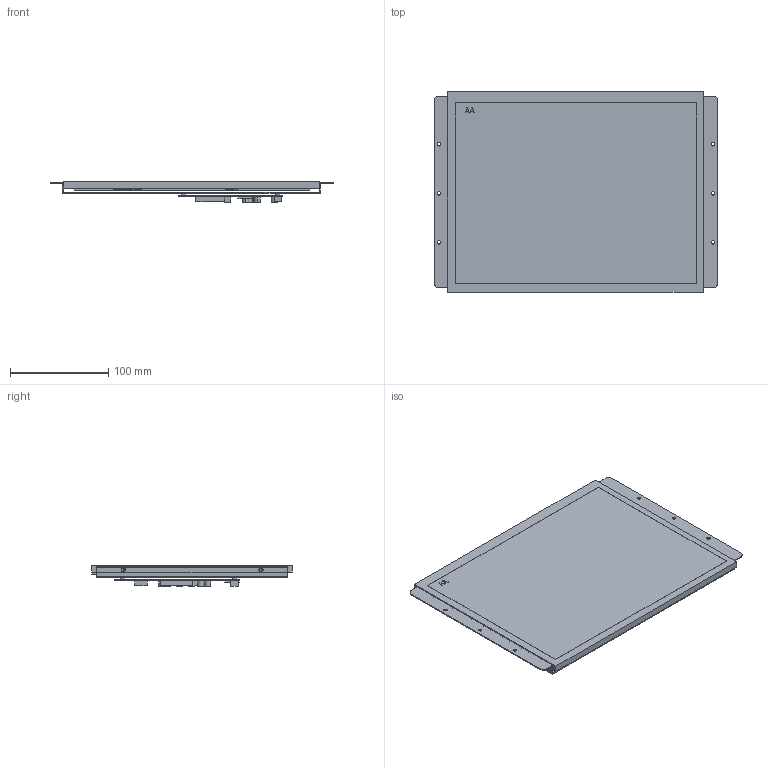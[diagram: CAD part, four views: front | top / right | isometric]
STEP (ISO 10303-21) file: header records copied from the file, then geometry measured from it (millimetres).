
FILE_DESCRIPTION((''),'2;1');
FILE_NAME('3D-DMG10768K121-03WN','2022-02-22T',('Administrator'),(''),'PRO/ENGINEER BY PARAMETRIC TECHNOLOGY CORPORATION, 2011310','PRO/ENGINEER BY PARAMETRIC TECHNOLOGY CORPORATION, 2011310','');
FILE_SCHEMA(('CONFIG_CONTROL_DESIGN','SHAPE_APPEARANCE_LAYERS_GROUPS'));
Length unit declared in the file: millimetre
Products named in the file (1): 3D-DMG10768K121-03WN
Bounding box: 289.2 x 204 x 21.4 mm (x, y, z)
Volume: 424824.5 mm3; surface area: 298246.1 mm2
Topology: 2 solids, 2 shells, 208 faces, 526 edges, 350 vertices
Faces by surface type: plane 130, cylinder 78
Entity records: 7386 total; most frequent: CARTESIAN_POINT 1102, DIRECTION 1094, ORIENTED_EDGE 1052, EDGE_CURVE 526, VECTOR 366, LINE 366, AXIS2_PLACEMENT_3D 364, VERTEX_POINT 350
